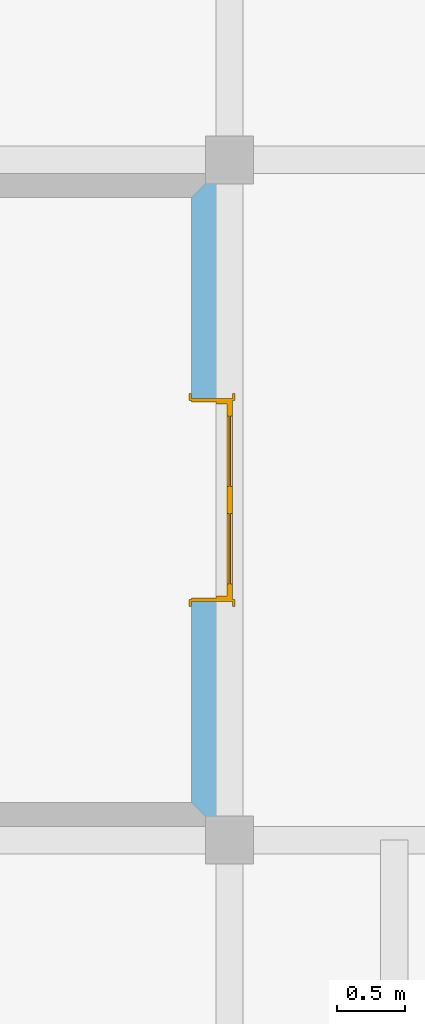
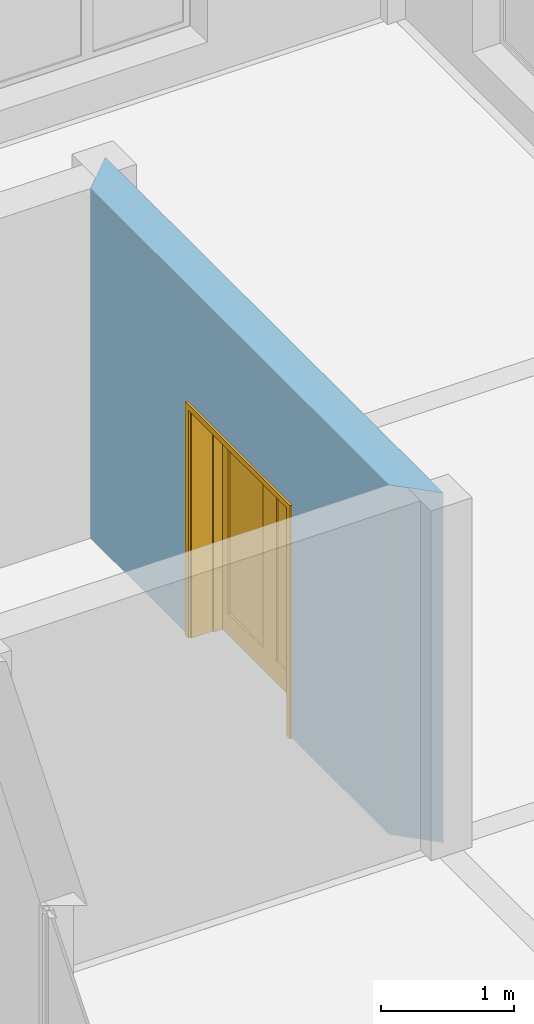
# One storey, part 6 of 6: 1 door, 1 opening, plus 1 element that does not belong to this part.
"""IFC2X3 building model written with IfcOpenShell, lengths in millimetres."""

from ifc_helpers import new_model, entity, si_unit, converted_unit, direction, frame, origin_with_axes, origin_2d_with_axis, place, context, subcontext, project, spatial, polyline, rectangle, outline, extrude, faceted_brep, source, transform, mapped, material, layer, layer_set, layer_usage, type_object, element, fill, save


model = new_model("IFC2X3")

# Units and contexts
model_context = context("Model", 3, precision=1e-05, world=origin_with_axes(), true_north=direction((0.0, 1.0)))
body_context = subcontext(model_context, "Body", "Model", "MODEL_VIEW")
ifc_project = project(units=[si_unit("LENGTHUNIT", "METRE", prefix="MILLI"), si_unit("AREAUNIT", "SQUARE_METRE"), si_unit("VOLUMEUNIT", "CUBIC_METRE"), converted_unit("PLANEANGLEUNIT", "DEGREE", entity("IfcPlaneAngleMeasure", 0.017453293), si_unit("PLANEANGLEUNIT", "RADIAN"), dimensions=[0, 0, 0, 0, 0, 0, 0]), si_unit("SOLIDANGLEUNIT", "STERADIAN"), si_unit("MASSUNIT", "GRAM"), si_unit("TIMEUNIT", "SECOND"), si_unit("THERMODYNAMICTEMPERATUREUNIT", "DEGREE_CELSIUS"), si_unit("LUMINOUSINTENSITYUNIT", "LUMEN")], contexts=[model_context])

# Site, building, storey
site_placement = place(None, origin_with_axes())
site = spatial("IfcSite", under=ifc_project, at=site_placement, Name="Sitio", CompositionType="ELEMENT")
building_placement = place(site_placement, origin_with_axes())
building = spatial("IfcBuilding", under=site, at=building_placement, Name="Ejemplo_StruBIM", CompositionType="ELEMENT")
storey_placement = place(building_placement, frame((0.0, 0.0, 3200.4), z_axis=(0.0, 0.0, 1.0), x_axis=(1.0, 0.0, 0.0)))
storey = spatial("IfcBuildingStorey", under=building, at=storey_placement, Name="First floor", CompositionType="ELEMENT", Elevation=3200.4)

# Wall, opening, door
ifc_material_1 = material(Name="Bloque mampostería")
ifc_layer = layer(ifc_material_1, 300.0, ventilated="UNKNOWN")
ifc_layer_set = layer_set([ifc_layer], Name="Bloque mampostería 300")
ifc_layer_usage = layer_usage(ifc_layer_set, "AXIS2", "POSITIVE", 0.0)
wall_type = type_object("IfcWallType", Name="Bloque mampostería 11 3/4\"", PredefinedType="NOTDEFINED")
wall_placement = place(storey_placement, frame((3683.0, 13741.4, 0.0), z_axis=(0.0, 0.0, 1.0), x_axis=(0.0, -1.0, 0.0)))
wall = element("IfcWallStandardCase", 1, at=wall_placement, inside=storey, type_object=wall_type, material=ifc_layer_usage, Name="Muro-008", context=body_context, shape_type="SweptSolid", body=[
    extrude(outline(polyline([(0.0, 0.0), (4470.4, 0.0), (4770.4, 300.0), (-300.0, 300.0), (0.0, 0.0)])), origin_with_axes(), (0.0, 0.0, 1.0), 3200.4),
])
opening_placement = place(wall_placement, frame((2235.2, 0.0, 0.0), z_axis=(0.0, 0.0, 1.0), x_axis=(1.0, 0.0, 0.0)))
opening = element("IfcOpeningElement", 2, at=opening_placement, cuts=wall, Name="P06", context=body_context, shape_type="SweptSolid", body=[
    extrude(rectangle(XDim=1500.0, YDim=2100.0, at=origin_2d_with_axis()), frame((0.0, 0.0, 1050.0), z_axis=(0.0, 1.0, 0.0), x_axis=(1.0, 0.0, 0.0)), (0.0, 0.0, 1.0), 300.0),
    extrude(rectangle(XDim=1574.0, YDim=2137.0, at=origin_2d_with_axis()), frame((0.0, 0.0, 1068.5), z_axis=(0.0, 1.0, 0.0), x_axis=(1.0, 0.0, 0.0)), (0.0, 0.0, -1.0), 300.0),
    extrude(rectangle(XDim=1574.0, YDim=2137.0, at=origin_2d_with_axis()), frame((0.0, 300.0, 1068.5), z_axis=(0.0, -1.0, 0.0), x_axis=(1.0, 0.0, 0.0)), (0.0, 0.0, -1.0), 300.0),
])
ifc_material_2 = material(Name="Fondo")
door_style = type_object("IfcDoorStyle", Name="Puerta Doble 16", ConstructionType="NOTDEFINED", OperationType="SINGLE_SWING_RIGHT", ParameterTakesPrecedence=False, Sizeable=False)
shared_shape = source(origin_with_axes(), body_context, "Body", "Brep", [
    faceted_brep([(-750.0, -115.0, 0.0), (-725.0, -115.0, 0.0), (-725.0, -300.0, 0.0), (-750.0, -300.0, 0.0), (-750.0, -115.0, 2100.0), (-725.0, -115.0, 2075.0), (-725.0, -300.0, 2075.0), (-750.0, -300.0, 2100.0)], [[[0, 1, 2, 3]], [[0, 4, 5, 1]], [[1, 5, 6, 2]], [[3, 2, 6, 7]], [[4, 0, 3, 7]], [[5, 4, 7, 6]]]),
    faceted_brep([(750.0, -115.0, 2100.0), (725.0, -115.0, 2075.0), (725.0, -300.0, 2075.0), (750.0, -300.0, 2100.0), (750.0, -115.0, 0.0), (725.0, -115.0, 0.0), (725.0, -300.0, 0.0), (750.0, -300.0, 0.0)], [[[0, 1, 2, 3]], [[0, 4, 5, 1]], [[1, 5, 6, 2]], [[3, 2, 6, 7]], [[4, 0, 3, 7]], [[5, 4, 7, 6]]]),
    faceted_brep([(-725.0, -115.0, 2075.0), (725.0, -115.0, 2075.0), (725.0, -300.0, 2075.0), (-725.0, -300.0, 2075.0), (-750.0, -115.0, 2100.0), (750.0, -115.0, 2100.0), (750.0, -300.0, 2100.0), (-750.0, -300.0, 2100.0)], [[[0, 1, 2, 3]], [[0, 4, 5, 1]], [[1, 5, 6, 2]], [[3, 2, 6, 7]], [[4, 0, 3, 7]], [[5, 4, 7, 6]]]),
    faceted_brep([(-787.0, -319.0, 0.0), (-787.0, -300.0, 0.0), (-737.0, -300.0, 0.0), (-737.0, -319.0, 0.0), (-787.0, -319.0, 2137.0), (-787.0, -300.0, 2137.0), (-737.0, -300.0, 2087.0), (-737.0, -319.0, 2087.0)], [[[0, 1, 2, 3]], [[4, 5, 1, 0]], [[1, 5, 6, 2]], [[3, 2, 6, 7]], [[0, 3, 7, 4]], [[7, 6, 5, 4]]]),
    faceted_brep([(787.0, -319.0, 2137.0), (787.0, -300.0, 2137.0), (737.0, -300.0, 2087.0), (737.0, -319.0, 2087.0), (787.0, -319.0, 0.0), (787.0, -300.0, 0.0), (737.0, -300.0, 0.0), (737.0, -319.0, 0.0)], [[[0, 1, 2, 3]], [[4, 5, 1, 0]], [[1, 5, 6, 2]], [[3, 2, 6, 7]], [[0, 3, 7, 4]], [[7, 6, 5, 4]]]),
    faceted_brep([(-787.0, -319.0, 2137.0), (-787.0, -300.0, 2137.0), (-737.0, -300.0, 2087.0), (-737.0, -319.0, 2087.0), (787.0, -319.0, 2137.0), (787.0, -300.0, 2137.0), (737.0, -300.0, 2087.0), (737.0, -319.0, 2087.0)], [[[0, 1, 2, 3]], [[4, 5, 1, 0]], [[1, 5, 6, 2]], [[3, 2, 6, 7]], [[0, 3, 7, 4]], [[7, 6, 5, 4]]]),
    faceted_brep([(-787.0, 19.0, 0.0), (-737.0, 19.0, 0.0), (-737.0, 0.0, 0.0), (-787.0, 0.0, 0.0), (-787.0, 19.0, 2137.0), (-737.0, 19.0, 2087.0), (-737.0, 0.0, 2087.0), (-787.0, 0.0, 2137.0)], [[[0, 1, 2, 3]], [[0, 4, 5, 1]], [[1, 5, 6, 2]], [[3, 2, 6, 7]], [[4, 0, 3, 7]], [[5, 4, 7, 6]]]),
    faceted_brep([(787.0, 19.0, 2137.0), (737.0, 19.0, 2087.0), (737.0, 0.0, 2087.0), (787.0, 0.0, 2137.0), (787.0, 19.0, 0.0), (737.0, 19.0, 0.0), (737.0, 0.0, 0.0), (787.0, 0.0, 0.0)], [[[0, 1, 2, 3]], [[0, 4, 5, 1]], [[1, 5, 6, 2]], [[3, 2, 6, 7]], [[4, 0, 3, 7]], [[5, 4, 7, 6]]]),
    faceted_brep([(-787.0, 19.0, 2137.0), (-737.0, 19.0, 2087.0), (-737.0, 0.0, 2087.0), (-787.0, 0.0, 2137.0), (787.0, 19.0, 2137.0), (737.0, 19.0, 2087.0), (737.0, 0.0, 2087.0), (787.0, 0.0, 2137.0)], [[[0, 1, 2, 3]], [[0, 4, 5, 1]], [[1, 5, 6, 2]], [[3, 2, 6, 7]], [[4, 0, 3, 7]], [[5, 4, 7, 6]]]),
    faceted_brep([(-710.0, -40.0, 0.0), (-710.0, -40.0, 2060.0), (-710.0, -115.0, 2060.0), (-710.0, -115.0, 0.0), (-722.0, -40.0, 2060.0), (-722.0, -40.0, 0.0), (-722.0, 2.2351741e-07, 2060.0), (-750.0, 2.2351741e-07, 2060.0), (-750.0, -115.0, 2060.0), (-750.0, -115.0, 0.0), (-750.0, 2.2351741e-07, -3.8951635e-07), (-722.0, 2.2351741e-07, 0.0)], [[[0, 1, 2, 3]], [[4, 1, 0, 5]], [[4, 6, 7, 8, 2, 1]], [[8, 9, 3, 2]], [[5, 0, 3, 9, 10, 11]], [[6, 4, 5, 11]], [[6, 11, 10, 7]], [[9, 8, 7, 10]]]),
    faceted_brep([(722.0, -40.0, 2060.0), (710.0, -40.0, 2060.0), (710.0, -115.0, 2060.0), (750.0, -115.0, 2060.0), (750.0, 2.2351741e-07, 2060.0), (722.0, 2.2351741e-07, 2060.0), (722.0, -40.0, 0.0), (710.0, -40.0, 0.0), (710.0, -115.0, 0.0), (750.0, -115.0, 0.0), (750.0, 2.2351741e-07, -3.8951635e-07), (722.0, 2.2351741e-07, 0.0)], [[[0, 1, 2, 3, 4, 5]], [[1, 0, 6, 7]], [[1, 7, 8, 2]], [[8, 9, 3, 2]], [[3, 9, 10, 4]], [[11, 5, 4, 10]], [[0, 5, 11, 6]], [[6, 11, 10, 9, 8, 7]]]),
    faceted_brep([(-722.0, 2.2351741e-07, 2072.0), (-722.0, 2.2351741e-07, 2060.0), (-750.0, 2.2351741e-07, 2060.0), (-750.0, 2.2351741e-07, 2100.0), (750.0, 2.2351741e-07, 2100.0), (750.0, 2.2351741e-07, 2060.0), (722.0, 2.2351741e-07, 2060.0), (722.0, 2.2351741e-07, 2072.0), (-722.0, -40.0, 2072.0), (-722.0, -40.0, 2060.0), (-710.0, -40.0, 2060.0), (-710.0, -115.0, 2060.0), (-750.0, -115.0, 2060.0), (-750.0, -115.0, 2100.0), (750.0, -115.0, 2100.0), (750.0, -115.0, 2060.0), (722.0, -40.0, 2060.0), (710.0, -115.0, 2060.0), (710.0, -40.0, 2060.0), (722.0, -40.0, 2072.0)], [[[0, 1, 2, 3, 4, 5, 6, 7]], [[1, 0, 8, 9]], [[9, 10, 11, 12, 2, 1]], [[12, 13, 3, 2]], [[13, 14, 4, 3]], [[14, 15, 5, 4]], [[16, 6, 5, 15, 17, 18]], [[7, 6, 16, 19]], [[0, 7, 19, 8]], [[16, 18, 10, 9, 8, 19]], [[10, 18, 17, 11]], [[14, 13, 12, 11, 17, 15]]]),
    faceted_brep([(722.0, 0.0, 200.0), (722.0, -40.0, 200.0), (622.0, -40.0, 200.0), (622.0, 0.0, 200.0), (722.0, 0.0, 1972.0), (722.0, -40.0, 1972.0), (622.0, -40.0, 1972.0), (622.0, 0.0, 1972.0)], [[[0, 1, 2, 3]], [[4, 5, 1, 0]], [[1, 5, 6, 2]], [[3, 2, 6, 7]], [[0, 3, 7, 4]], [[7, 6, 5, 4]]]),
    faceted_brep([(0.0, 0.0, 200.0), (0.0, -40.0, 200.0), (0.0, -40.0, 1972.0), (0.0, 0.0, 1972.0), (100.0, 0.0, 200.0), (100.0, -40.0, 200.0), (100.0, -40.0, 1972.0), (100.0, 0.0, 1972.0)], [[[0, 1, 2, 3]], [[4, 5, 1, 0]], [[1, 5, 6, 2]], [[3, 2, 6, 7]], [[0, 3, 7, 4]], [[7, 6, 5, 4]]]),
    faceted_brep([(722.0, 0.0, 0.0), (722.0, -40.0, 0.0), (0.0, -40.0, 0.0), (0.0, 0.0, 0.0), (722.0, 0.0, 200.0), (722.0, -40.0, 200.0), (622.0, -40.0, 200.0), (100.0, -40.0, 200.0), (0.0, -40.0, 200.0), (0.0, 0.0, 200.0), (100.0, 0.0, 200.0), (622.0, 0.0, 200.0)], [[[0, 1, 2, 3]], [[4, 5, 1, 0]], [[1, 5, 6, 7, 8, 2]], [[3, 2, 8, 9]], [[0, 3, 9, 10, 11, 4]], [[11, 6, 5, 4]], [[10, 7, 6, 11]], [[9, 8, 7, 10]]]),
    faceted_brep([(722.0, 0.0, 2072.0), (722.0, -40.0, 2072.0), (722.0, -40.0, 1972.0), (722.0, 0.0, 1972.0), (0.0, 0.0, 2072.0), (0.0, -40.0, 2072.0), (0.0, -40.0, 1972.0), (100.0, -40.0, 1972.0), (622.0, -40.0, 1972.0), (622.0, 0.0, 1972.0), (100.0, 0.0, 1972.0), (0.0, 0.0, 1972.0)], [[[0, 1, 2, 3]], [[4, 5, 1, 0]], [[1, 5, 6, 7, 8, 2]], [[3, 2, 8, 9]], [[0, 3, 9, 10, 11, 4]], [[11, 6, 5, 4]], [[10, 7, 6, 11]], [[9, 8, 7, 10]]]),
    faceted_brep([(622.0, -14.0, 200.0), (622.0, -26.0, 200.0), (100.0, -26.0, 200.0), (100.0, -14.0, 200.0), (622.0, -14.0, 1972.0), (622.0, -26.0, 1972.0), (100.0, -26.0, 1972.0), (100.0, -14.0, 1972.0)], [[[0, 1, 2, 3]], [[4, 5, 1, 0]], [[1, 5, 6, 2]], [[3, 2, 6, 7]], [[0, 3, 7, 4]], [[7, 6, 5, 4]]]),
    faceted_brep([(-722.0, 0.0, 200.0), (-622.0, 0.0, 200.0), (-622.0, -40.0, 200.0), (-722.0, -40.0, 200.0), (-722.0, 0.0, 1972.0), (-622.0, 0.0, 1972.0), (-622.0, -40.0, 1972.0), (-722.0, -40.0, 1972.0)], [[[0, 1, 2, 3]], [[0, 4, 5, 1]], [[1, 5, 6, 2]], [[3, 2, 6, 7]], [[4, 0, 3, 7]], [[5, 4, 7, 6]]]),
    faceted_brep([(0.0, 0.0, 200.0), (0.0, 0.0, 1972.0), (0.0, -40.0, 1972.0), (0.0, -40.0, 200.0), (-100.0, 0.0, 200.0), (-100.0, 0.0, 1972.0), (-100.0, -40.0, 1972.0), (-100.0, -40.0, 200.0)], [[[0, 1, 2, 3]], [[0, 4, 5, 1]], [[1, 5, 6, 2]], [[3, 2, 6, 7]], [[4, 0, 3, 7]], [[5, 4, 7, 6]]]),
    faceted_brep([(-722.0, 0.0, 0.0), (0.0, 0.0, 0.0), (0.0, -40.0, 0.0), (-722.0, -40.0, 0.0), (-722.0, 0.0, 200.0), (-622.0, 0.0, 200.0), (-100.0, 0.0, 200.0), (0.0, 0.0, 200.0), (0.0, -40.0, 200.0), (-100.0, -40.0, 200.0), (-622.0, -40.0, 200.0), (-722.0, -40.0, 200.0)], [[[0, 1, 2, 3]], [[0, 4, 5, 6, 7, 1]], [[1, 7, 8, 2]], [[3, 2, 8, 9, 10, 11]], [[4, 0, 3, 11]], [[5, 4, 11, 10]], [[6, 5, 10, 9]], [[7, 6, 9, 8]]]),
    faceted_brep([(-722.0, 0.0, 2072.0), (-722.0, 0.0, 1972.0), (-722.0, -40.0, 1972.0), (-722.0, -40.0, 2072.0), (0.0, 0.0, 2072.0), (0.0, 0.0, 1972.0), (-100.0, 0.0, 1972.0), (-622.0, 0.0, 1972.0), (-622.0, -40.0, 1972.0), (-100.0, -40.0, 1972.0), (0.0, -40.0, 1972.0), (0.0, -40.0, 2072.0)], [[[0, 1, 2, 3]], [[0, 4, 5, 6, 7, 1]], [[1, 7, 8, 2]], [[3, 2, 8, 9, 10, 11]], [[4, 0, 3, 11]], [[5, 4, 11, 10]], [[6, 5, 10, 9]], [[7, 6, 9, 8]]]),
    faceted_brep([(-622.0, -14.0, 200.0), (-100.0, -14.0, 200.0), (-100.0, -26.0, 200.0), (-622.0, -26.0, 200.0), (-622.0, -14.0, 1972.0), (-100.0, -14.0, 1972.0), (-100.0, -26.0, 1972.0), (-622.0, -26.0, 1972.0)], [[[0, 1, 2, 3]], [[0, 4, 5, 1]], [[1, 5, 6, 2]], [[3, 2, 6, 7]], [[4, 0, 3, 7]], [[5, 4, 7, 6]]]),
])
door_placement = place(opening_placement, frame((-750.0, 0.0, 0.0), z_axis=(0.0, 0.0, 1.0), x_axis=(1.0, 0.0, 0.0)))
door = element("IfcDoor", 3, at=door_placement, inside=storey, type_object=door_style, material=ifc_material_2, Name="P06", OverallHeight=2100.0, OverallWidth=1500.0, context=body_context, shape_type="MappedRepresentation", body=[
    mapped(shared_shape, transform((750.0, 300.0, 0.0))),
])
fill(opening, door)

save(model, "model.ifc")
